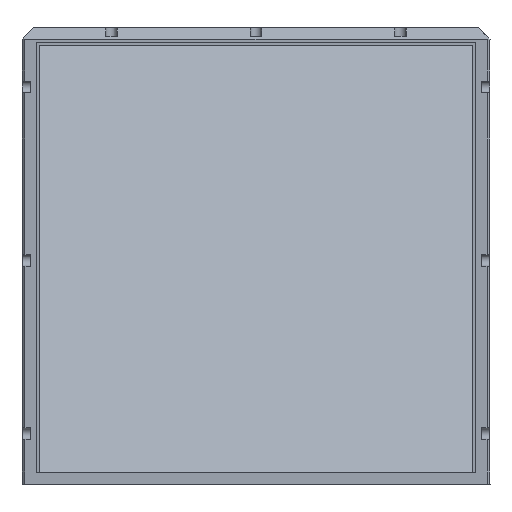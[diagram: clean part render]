
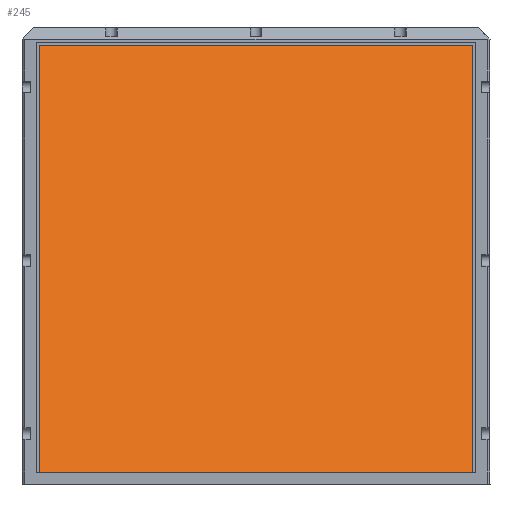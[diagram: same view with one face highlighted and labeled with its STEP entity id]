
A CAD part, front view. The second image highlights one B-rep face of the part: STEP entity #245.
In plain terms, the highlighted planar face has unit normal (0, -0.707, 0.707).
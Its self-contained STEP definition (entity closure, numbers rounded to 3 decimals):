
#113=CARTESIAN_POINT('',(83.762,220.837,2.297));
#114=VERTEX_POINT('',#113);
#123=CARTESIAN_POINT('',(236.262,220.837,2.297));
#124=VERTEX_POINT('',#123);
#125=CARTESIAN_POINT('',(83.762,220.837,2.297));
#126=DIRECTION('',(1.0,0.0,0.0));
#127=VECTOR('',#126,152.5);
#128=LINE('',#125,#127);
#129=EDGE_CURVE('',#114,#124,#128,.T.);
#160=CARTESIAN_POINT('',(236.262,71.708,-146.831));
#161=VERTEX_POINT('',#160);
#162=CARTESIAN_POINT('',(236.262,220.837,2.297));
#163=DIRECTION('',(0.,-0.707,-0.707));
#164=VECTOR('',#163,210.9);
#165=LINE('',#162,#164);
#166=EDGE_CURVE('',#124,#161,#165,.T.);
#193=CARTESIAN_POINT('',(83.762,71.708,-146.831));
#194=VERTEX_POINT('',#193);
#220=CARTESIAN_POINT('',(236.262,71.708,-146.831));
#221=DIRECTION('',(-1.0,0.0,0.0));
#222=VECTOR('',#221,152.5);
#223=LINE('',#220,#222);
#224=EDGE_CURVE('',#161,#194,#223,.T.);
#229=CARTESIAN_POINT('',(159.762,146.272,-72.267));
#230=DIRECTION('',(0.,-0.707,0.707));
#231=DIRECTION('',(1.0,0.0,0.0));
#232=AXIS2_PLACEMENT_3D('',#229,#230,#231);
#233=PLANE('',#232);
#234=CARTESIAN_POINT('',(83.762,71.708,-146.831));
#235=DIRECTION('',(0.,0.707,0.707));
#236=VECTOR('',#235,210.9);
#237=LINE('',#234,#236);
#238=EDGE_CURVE('',#194,#114,#237,.T.);
#239=ORIENTED_EDGE('',*,*,#238,.F.);
#240=ORIENTED_EDGE('',*,*,#224,.F.);
#241=ORIENTED_EDGE('',*,*,#166,.F.);
#242=ORIENTED_EDGE('',*,*,#129,.F.);
#243=EDGE_LOOP('',(#239,#240,#241,#242));
#244=FACE_OUTER_BOUND('',#243,.T.);
#245=ADVANCED_FACE('',(#244),#233,.T.);
